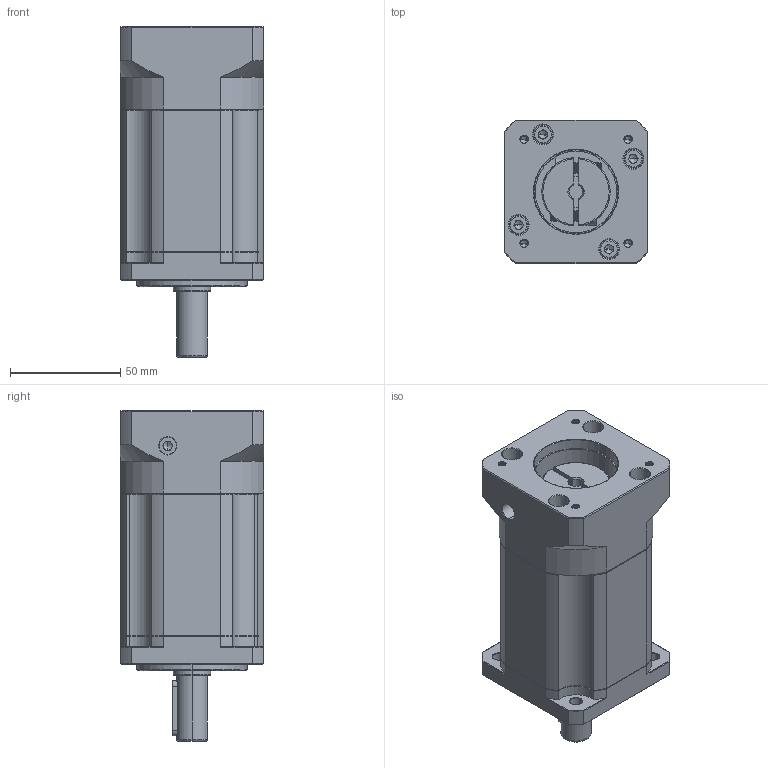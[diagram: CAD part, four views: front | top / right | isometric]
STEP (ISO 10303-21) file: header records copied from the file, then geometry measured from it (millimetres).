
FILE_DESCRIPTION (( 'STEP AP214' ), '1' );
FILE_NAME ('ZB60-D14-L3-6.35-38.1-47.14X47.14-M4.STEP', '2022-04-16T14:42:57', ( '' ), ( 'Microsoft' ), 'SwSTEP 2.0', 'SolidWorks 2016', '' );
FILE_SCHEMA (( 'AUTOMOTIVE_DESIGN' ));
Length unit declared in the file: millimetre
Products named in the file (1): ZB60-D14-L3-6.35-38.1-47.14X47.14-M4
Bounding box: 65 x 65 x 150 mm (x, y, z)
Volume: 395101.6 mm3; surface area: 62258.6 mm2
Topology: 6 solids, 6 shells, 1876 faces, 4981 edges, 3188 vertices
Faces by surface type: plane 879, cylinder 381, bspline 299, cone 281, torus 36
Entity records: 98853 total; most frequent: CARTESIAN_POINT 34024, ORIENTED_EDGE 9902, DIRECTION 8109, EDGE_CURVE 4951, VERTEX_POINT 3188, LINE 3011, VECTOR 3011, AXIS2_PLACEMENT_3D 2549
